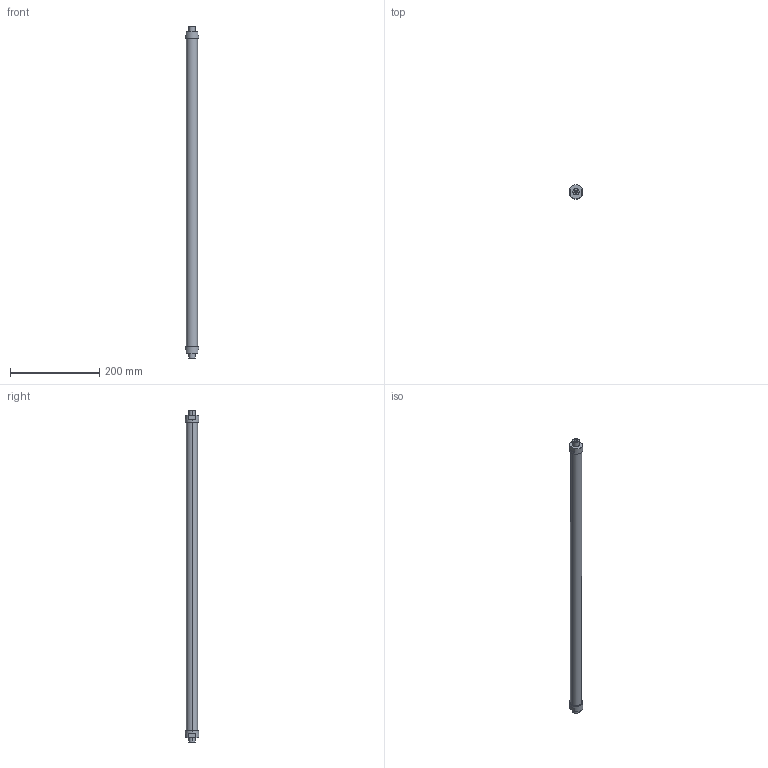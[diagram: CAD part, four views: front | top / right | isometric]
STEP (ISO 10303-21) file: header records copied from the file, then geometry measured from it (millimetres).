
FILE_DESCRIPTION(('STEP AP214'),'1');
FILE_NAME('ETT-R050G734.stp','2015-02-02T13:05:35',(' '),(' '),'Spatial InterOp 3D',' ',' ');
FILE_SCHEMA(('automotive_design'));
Length unit declared in the file: metre
Products named in the file (3): 1; 2; 3
Bounding box: 31 x 31 x 746 mm (x, y, z)
Volume: 344458.5 mm3; surface area: 74912.5 mm2
Topology: 1 solids, 7 shells, 32 faces, 86 edges, 66 vertices
Faces by surface type: cylinder 16, plane 16
Entity records: 1375 total; most frequent: DIRECTION 206, CARTESIAN_POINT 187, ORIENTED_EDGE 148, EDGE_CURVE 86, AXIS2_PLACEMENT_3D 85, VERTEX_POINT 66, CIRCLE 50, EDGE_LOOP 40
